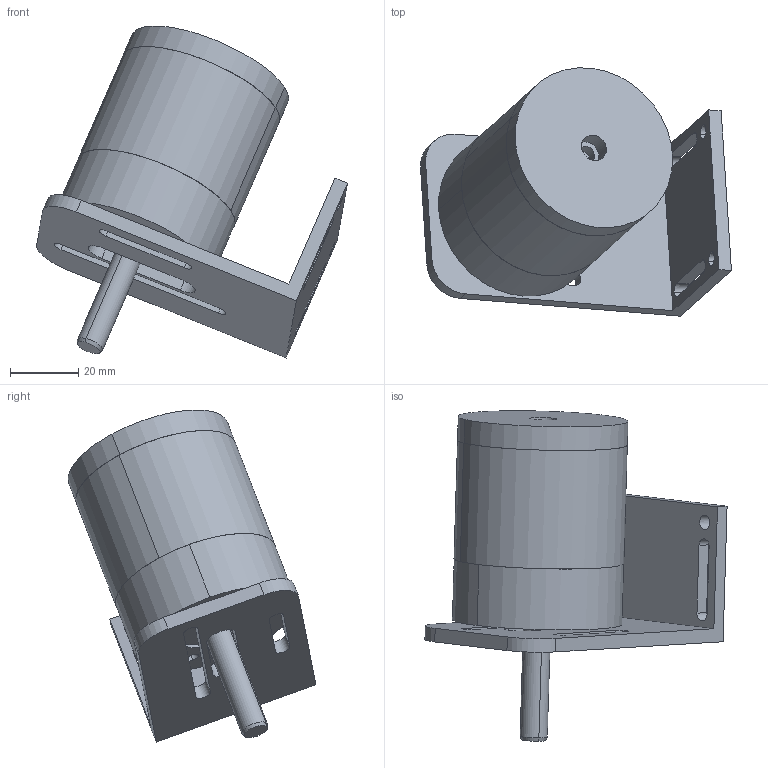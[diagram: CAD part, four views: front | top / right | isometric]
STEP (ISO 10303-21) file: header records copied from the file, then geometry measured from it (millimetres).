
FILE_DESCRIPTION (( 'STEP AP203' ), '1' );
FILE_NAME ('TRME_1.STEP', '2017-10-05T18:44:47', ( '' ), ( '' ), 'SwSTEP 2.0', 'SolidWorks 2014', '' );
FILE_SCHEMA (( 'CONFIG_CONTROL_DESIGN' ));
Length unit declared in the file: millimetre
Products named in the file (9): ložisko; držák rotaèního snímaèe; šroub M3x40; TRME_1; kolík s magnetem; t骴o sn璥a鋀; zadní víèko; Víèko pøední; základní deska s èipem
Assembly tree (10 placements, depth 2):
  TRME_1
    t骴o sn璥a鋀
    zadní víèko
    Víèko pøední
    ložisko  x2
    základní deska s èipem
    šroub M3x40  x2
    kolík s magnetem
    držák rotaèního snímaèe
Bounding box: 91.43 x 72.93 x 97.64 mm (x, y, z)
Volume: 99843.6 mm3; surface area: 46928.2 mm2
Topology: 10 solids, 10 shells, 223 faces, 544 edges, 362 vertices
Faces by surface type: plane 119, cylinder 102, cone 2
Entity records: 7165 total; most frequent: DIRECTION 1144, CARTESIAN_POINT 1052, ORIENTED_EDGE 1004, EDGE_CURVE 502, AXIS2_PLACEMENT_3D 426, VERTEX_POINT 334, LINE 292, VECTOR 292
